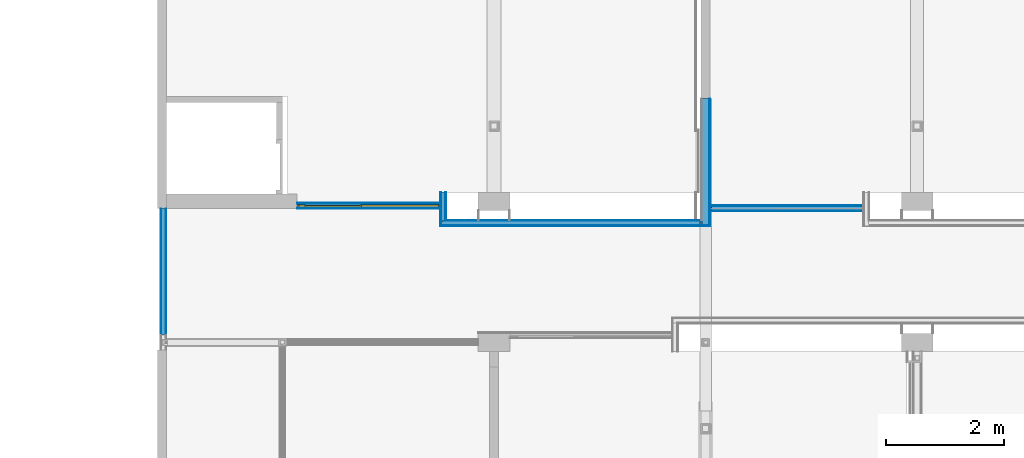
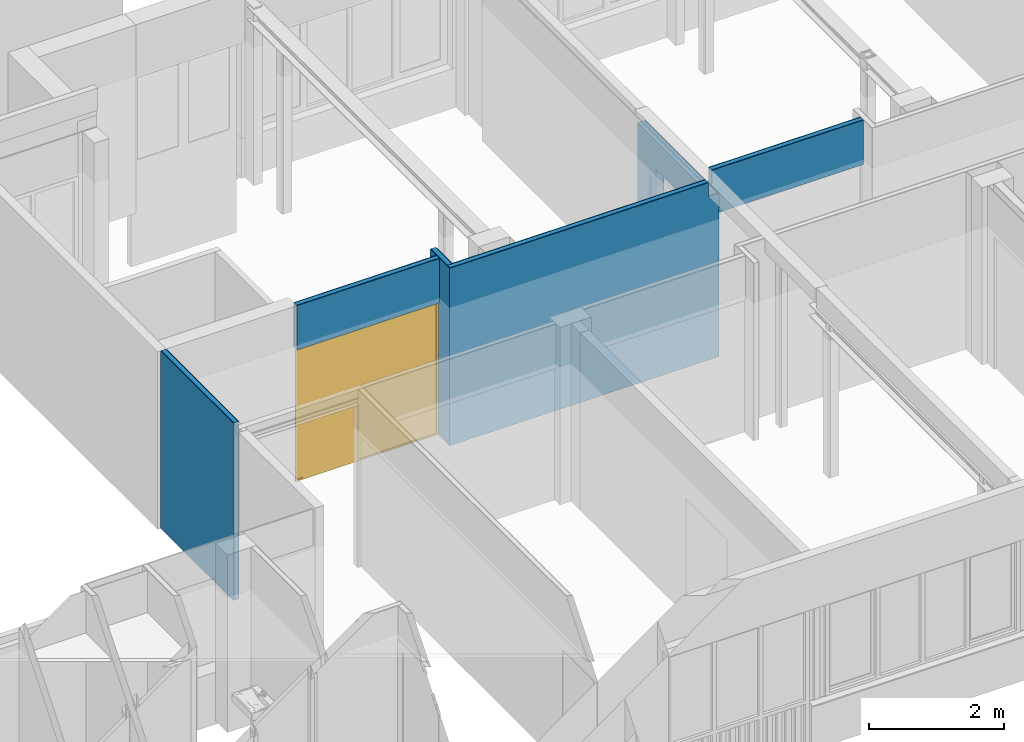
# One storey, part 66 of 99: 17 building element parts, 1 door, 3 openings, 6 elements without a shape of their own.
"""IFC2X3 building model written with IfcOpenShell, lengths in millimetres."""

from ifc_helpers import new_model, entity, si_unit, converted_unit, derived_unit, money_unit, direction, frame, origin_with_axes, place, context, subcontext, project, spatial, open_shell, faceted_brep, surface_model, material, type_object, element, fill, aggregate, save


model = new_model("IFC2X3")

# Units and contexts
model_context = context("Model", 3, precision=0.01, world=origin_with_axes(), true_north=direction((0.0, 1.0)))
body_context = subcontext(model_context, "Body", "Model", "MODEL_VIEW")
ifc_project = project(units=[si_unit("LENGTHUNIT", "METRE", prefix="MILLI"), si_unit("AREAUNIT", "SQUARE_METRE"), si_unit("VOLUMEUNIT", "CUBIC_METRE"), converted_unit("PLANEANGLEUNIT", "DEGREE", entity("IfcPlaneAngleMeasure", 0.0174532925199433), si_unit("PLANEANGLEUNIT", "RADIAN"), dimensions=[0, 0, 0, 0, 0, 0, 0]), money_unit("EUR"), converted_unit("TIMEUNIT", "Year", entity("IfcTimeMeasure", 31557600.0), si_unit("TIMEUNIT", "SECOND"), dimensions=[0, 0, 1, 0, 0, 0, 0]), si_unit("MASSUNIT", "GRAM", prefix="KILO"), si_unit("THERMODYNAMICTEMPERATUREUNIT", "DEGREE_CELSIUS"), si_unit("LUMINOUSINTENSITYUNIT", "LUMEN"), si_unit("ENERGYUNIT", "JOULE", prefix="MEGA"), derived_unit("THERMALCONDUCTANCEUNIT", [(si_unit("POWERUNIT", "WATT"), 1), (si_unit("LENGTHUNIT", "METRE"), -1), (si_unit("THERMODYNAMICTEMPERATUREUNIT", "KELVIN"), -1)]), derived_unit("SPECIFICHEATCAPACITYUNIT", [(si_unit("ENERGYUNIT", "JOULE"), 1), (si_unit("MASSUNIT", "GRAM", prefix="KILO"), -1), (si_unit("THERMODYNAMICTEMPERATUREUNIT", "KELVIN"), -1)]), derived_unit("MASSDENSITYUNIT", [(si_unit("MASSUNIT", "GRAM", prefix="KILO"), 1), (si_unit("VOLUMEUNIT", "CUBIC_METRE"), -1)])], contexts=[model_context])

# Site, building, storey
site_placement = place(None, origin_with_axes())
site = spatial("IfcSite", under=ifc_project, at=site_placement, Name="Site", CompositionType="ELEMENT")
building_placement = place(site_placement, origin_with_axes())
building = spatial("IfcBuilding", under=site, at=building_placement, Name="Naam gebouw", CompositionType="ELEMENT")
storey_placement = place(building_placement, frame((0.0, 0.0, 7650.0), z_axis=(0.0, 0.0, 1.0), x_axis=(1.0, 0.0, 0.0)))
storey = spatial("IfcBuildingStorey", under=building, at=storey_placement, Name="2e verdieping N", CompositionType="ELEMENT", Elevation=7650.0)

# Door
door_style = type_object("IfcDoorStyle", Name="D1 zl2 27", ConstructionType="NOTDEFINED", OperationType="USERDEFINED", ParameterTakesPrecedence=False, Sizeable=False)
wall_3_placement = place(storey_placement, frame((32649.99995389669, 20350.91242510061, 0.0), z_axis=(0.0, 0.0, 1.0), x_axis=(1.0, 0.0, 0.0)))
opening_2_placement = place(wall_3_placement, frame((1217.500023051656, 0.0, 0.0), z_axis=(0.0, 0.0, 1.0), x_axis=(1.0, 0.0, 0.0)))
door_placement = place(opening_2_placement, frame((-1217.500023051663, 0.0, 0.0), z_axis=(0.0, 0.0, 1.0), x_axis=(1.0, 0.0, 0.0)))
door = element("IfcDoor", 1, at=door_placement, inside=storey, type_object=door_style, Name="_Merk-x", ObjectType="DOOR", OverallHeight=2400.0, OverallWidth=2435.0, context=body_context, shape_type="SurfaceModel", body=[
    faceted_brep([(2435.000046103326, 9.99999999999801, 0.0), (2435.000046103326, -10.00000000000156, 0.0), (2405.000046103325, -10.00000000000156, 0.0), (2405.000046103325, 9.99999999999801, 0.0), (2435.000046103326, 9.99999999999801, 2369.999999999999), (2435.000046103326, -10.00000000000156, 2369.999999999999), (2405.000046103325, -10.00000000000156, 2369.999999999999), (2405.000046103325, -10.00000000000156, 30.00000000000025), (2405.000046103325, 9.99999999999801, 30.00000000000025), (2405.000046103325, 9.99999999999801, 2369.999999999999)], [[[0, 1, 2, 3]], [[4, 5, 1, 0]], [[1, 5, 6, 7, 2]], [[3, 2, 7, 8]], [[0, 3, 8, 9, 4]], [[9, 6, 5, 4]], [[8, 7, 6, 9]]]),
    faceted_brep([(1060.000000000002, -9.000000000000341, 0.0), (1060.000000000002, -10.00000000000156, 0.0), (1060.000000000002, -10.00000000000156, 2369.999999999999), (1060.000000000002, -9.000000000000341, 2369.999999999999), (1077.000000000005, -9.000000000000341, 0.0), (1077.000000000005, 9.99999999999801, 0.0), (1090.000000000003, 9.99999999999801, 0.0), (1090.000000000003, -10.00000000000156, 0.0), (1090.000000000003, -10.00000000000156, 30.00000000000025), (1090.000000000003, -10.00000000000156, 2369.999999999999), (1077.000000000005, -9.000000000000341, 2369.999999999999), (1090.000000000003, 9.99999999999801, 2369.999999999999), (1077.000000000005, 9.99999999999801, 2369.999999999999), (1090.000000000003, 9.99999999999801, 30.00000000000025)], [[[0, 1, 2, 3]], [[4, 5, 6, 7, 1, 0]], [[7, 8, 9, 2, 1]], [[10, 3, 2, 9, 11, 12]], [[10, 4, 0, 3]], [[12, 5, 4, 10]], [[12, 11, 13, 6, 5]], [[6, 13, 8, 7]], [[13, 11, 9, 8]]]),
    faceted_brep([(2405.000046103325, 9.99999999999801, 30.00000000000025), (2405.000046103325, -10.00000000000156, 30.00000000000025), (2405.000046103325, -10.00000000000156, 0.0), (2405.000046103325, 9.99999999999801, 0.0), (1090.000000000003, 9.99999999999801, 30.00000000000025), (1090.000000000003, -10.00000000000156, 30.00000000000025), (1090.000000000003, -10.00000000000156, 0.0), (1090.000000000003, 9.99999999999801, 0.0)], [[[0, 1, 2, 3]], [[4, 5, 1, 0]], [[1, 5, 6, 2]], [[3, 2, 6, 7]], [[0, 3, 7, 4]], [[7, 6, 5, 4]]]),
    faceted_brep([(0.0, 9.99999999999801, 0.0), (0.0, -10.00000000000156, 0.0), (0.0, -10.00000000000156, 2369.999999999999), (0.0, 9.99999999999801, 2369.999999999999), (30.00000000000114, 9.99999999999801, 0.0), (30.00000000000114, -10.00000000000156, 0.0), (30.00000000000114, -10.00000000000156, 30.00000000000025), (30.00000000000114, -10.00000000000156, 2369.999999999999), (30.00000000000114, 9.99999999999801, 2369.999999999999), (30.00000000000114, 9.99999999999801, 30.00000000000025)], [[[0, 1, 2, 3]], [[4, 5, 1, 0]], [[1, 5, 6, 7, 2]], [[3, 2, 7, 8]], [[0, 3, 8, 9, 4]], [[9, 6, 5, 4]], [[8, 7, 6, 9]]]),
    faceted_brep([(143.0000000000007, -9.000000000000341, 2369.999999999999), (143.0000000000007, 9.99999999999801, 2369.999999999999), (130.0000000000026, 9.99999999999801, 2369.999999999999), (130.0000000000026, -10.00000000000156, 2369.999999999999), (160.0000000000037, -10.00000000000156, 2369.999999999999), (160.0000000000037, -9.000000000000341, 2369.999999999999), (143.0000000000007, -9.000000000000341, 0.0), (143.0000000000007, 9.99999999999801, 0.0), (130.0000000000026, 9.99999999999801, 0.0), (130.0000000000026, 9.99999999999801, 30.00000000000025), (130.0000000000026, -10.00000000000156, 30.00000000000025), (160.0000000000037, -10.00000000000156, 0.0), (130.0000000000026, -10.00000000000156, 0.0), (160.0000000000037, -9.000000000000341, 0.0)], [[[0, 1, 2, 3, 4, 5]], [[0, 6, 7, 1]], [[7, 8, 9, 2, 1]], [[2, 9, 10, 3]], [[11, 4, 3, 10, 12]], [[5, 4, 11, 13]], [[5, 13, 6, 0]], [[6, 13, 11, 12, 8, 7]], [[9, 8, 12, 10]]]),
    faceted_brep([(130.0000000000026, 9.99999999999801, 30.00000000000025), (130.0000000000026, -10.00000000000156, 30.00000000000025), (130.0000000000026, -10.00000000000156, 0.0), (130.0000000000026, 9.99999999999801, 0.0), (30.00000000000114, 9.99999999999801, 30.00000000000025), (30.00000000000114, -10.00000000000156, 30.00000000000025), (30.00000000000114, -10.00000000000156, 0.0), (30.00000000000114, 9.99999999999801, 0.0)], [[[0, 1, 2, 3]], [[4, 5, 1, 0]], [[1, 5, 6, 2]], [[3, 2, 6, 7]], [[0, 3, 7, 4]], [[7, 6, 5, 4]]]),
    faceted_brep([(1077.000000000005, 9.99999999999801, 2387.0), (143.0000000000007, 9.99999999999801, 2387.0), (143.0000000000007, 9.99999999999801, 2369.999999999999), (130.0000000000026, 9.99999999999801, 2369.999999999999), (30.00000000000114, 9.99999999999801, 2369.999999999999), (0.0, 9.99999999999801, 2369.999999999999), (0.0, 9.99999999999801, 2400.0), (2435.000046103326, 9.99999999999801, 2400.0), (2435.000046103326, 9.99999999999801, 2369.999999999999), (2405.000046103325, 9.99999999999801, 2369.999999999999), (1090.000000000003, 9.99999999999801, 2369.999999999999), (1077.000000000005, 9.99999999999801, 2369.999999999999), (1077.000000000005, -9.000000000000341, 2387.0), (143.0000000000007, -9.000000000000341, 2387.0), (143.0000000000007, -9.000000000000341, 2369.999999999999), (160.0000000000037, -9.000000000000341, 2369.999999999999), (160.0000000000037, -10.00000000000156, 2369.999999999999), (130.0000000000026, -10.00000000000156, 2369.999999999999), (30.00000000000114, -10.00000000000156, 2369.999999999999), (0.0, -10.00000000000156, 2369.999999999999), (0.0, -10.00000000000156, 2400.0), (2435.000046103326, -10.00000000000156, 2400.0), (2435.000046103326, -10.00000000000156, 2369.999999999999), (2405.000046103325, -10.00000000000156, 2369.999999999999), (1090.000000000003, -10.00000000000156, 2369.999999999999), (1077.000000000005, -9.000000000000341, 2369.999999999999), (1060.000000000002, -10.00000000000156, 2369.999999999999)], [[[0, 1, 2, 3, 4, 5, 6, 7, 8, 9, 10, 11]], [[0, 12, 13, 1]], [[1, 13, 14, 2]], [[14, 15, 16, 17, 18, 4, 3, 2]], [[5, 4, 18, 19]], [[6, 5, 19, 20]], [[7, 6, 20, 21]], [[8, 7, 21, 22]], [[9, 8, 22, 23]], [[10, 9, 23, 24]], [[25, 11, 10, 24, 26, 16, 15]], [[11, 25, 12, 0]], [[14, 13, 12, 25, 15]], [[18, 17, 16, 26, 24, 23, 22, 21, 20, 19]]]),
    faceted_brep([(143.0000000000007, 0.9999999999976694, 0.0), (1077.000000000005, 0.9999999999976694, 0.0), (1077.000000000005, -9.000000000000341, 0.0), (143.0000000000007, -9.000000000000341, 0.0), (143.0000000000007, 0.9999999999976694, 2387.0), (1077.000000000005, 0.9999999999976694, 2387.0), (1077.000000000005, -9.000000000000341, 2387.0), (143.0000000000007, -9.000000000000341, 2387.0)], [[[0, 1, 2, 3]], [[0, 4, 5, 1]], [[1, 5, 6, 2]], [[3, 2, 6, 7]], [[4, 0, 3, 7]], [[5, 4, 7, 6]]]),
    surface_model("IfcShellBasedSurfaceModel", [(2405.000046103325, 8.999999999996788, 30.00000000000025), (1090.000000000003, 8.999999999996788, 30.00000000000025), (1090.000000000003, 8.999999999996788, 2369.999999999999), (2405.000046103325, 8.999999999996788, 2369.999999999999)], [open_shell([[[0, 1, 2, 3]]])]),
    surface_model("IfcShellBasedSurfaceModel", [(2405.000046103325, 0.9999999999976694, 30.00000000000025), (2405.000046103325, 0.9999999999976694, 2369.999999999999), (1090.000000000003, 0.9999999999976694, 2369.999999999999), (1090.000000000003, 0.9999999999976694, 30.00000000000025)], [open_shell([[[0, 1, 2, 3]]])]),
    surface_model("IfcShellBasedSurfaceModel", [(130.0000000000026, 8.999999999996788, 30.00000000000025), (30.00000000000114, 8.999999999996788, 30.00000000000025), (30.00000000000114, 8.999999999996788, 2369.999999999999), (130.0000000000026, 8.999999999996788, 2369.999999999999)], [open_shell([[[0, 1, 2, 3]]])]),
    surface_model("IfcShellBasedSurfaceModel", [(130.0000000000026, 0.9999999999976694, 30.00000000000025), (130.0000000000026, 0.9999999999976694, 2369.999999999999), (30.00000000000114, 0.9999999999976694, 2369.999999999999), (30.00000000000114, 0.9999999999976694, 30.00000000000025)], [open_shell([[[0, 1, 2, 3]]])]),
])

# Wall, opening, building element parts
wall_type_1 = type_object("IfcWallType", Name="Metalstud iso 150 150", PredefinedType="NOTDEFINED")
wall_1_placement = place(storey_placement, frame((39600.00000000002, 22175.91242510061, -99.99999999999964), z_axis=(0.0, 0.0, 1.0), x_axis=(0.0, -1.0, 0.0)))
wall_1 = element("IfcWall", 2, at=wall_1_placement, inside=storey, type_object=wall_type_1, Name="_Wand-x")
opening_1_placement = place(wall_1_placement, frame((1075.000026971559, 0.0, 99.99999999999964), z_axis=(0.0, 0.0, 1.0), x_axis=(1.0, 0.0, 0.0)))
element("IfcOpeningElement", 3, at=opening_1_placement, cuts=wall_1, Name="_Merk-x", context=body_context, shape_type="Brep", body=[
    faceted_brep([(-519.999973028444, -76.00000000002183, 2440.0), (-519.999973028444, -76.00000000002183, 0.0), (519.999973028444, -76.00000000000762, 0.0), (519.999973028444, -76.00000000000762, 2440.0), (-519.999973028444, 76.00000000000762, 2440.0), (-519.999973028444, 76.00000000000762, 0.0), (519.999973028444, 76.00000000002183, 0.0), (519.999973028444, 76.00000000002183, 2440.0)], [[[0, 1, 2, 3]], [[4, 5, 1, 0]], [[5, 6, 2, 1]], [[6, 7, 3, 2]], [[7, 4, 0, 3]], [[6, 5, 4, 7]]]),
])
ifc_material_1 = material(Name="Gipsplaat")
building_element_part_1_placement = place(wall_1_placement, origin_with_axes())
building_element_part_1 = element("IfcBuildingElementPart", 4, at=building_element_part_1_placement, material=ifc_material_1, Name="Gipsplaat", context=body_context, shape_type="Brep", body=[
    faceted_brep([(1595.000000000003, 75.00000000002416, 99.99999999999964), (1595.000000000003, 75.00000000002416, 2539.999999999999), (555.0000539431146, 75.00000000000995, 2539.999999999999), (555.0000539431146, 75.00000000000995, 99.99999999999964), (0.0, 75.00000000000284, 99.99999999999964), (0.0, 75.00000000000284, 3049.999999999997), (2157.500000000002, 75.00000000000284, 3049.999999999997), (2157.500000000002, 75.00000000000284, 99.99999999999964), (2070.000000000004, 75.00000000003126, 99.99999999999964), (1595.000000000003, 62.50000000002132, 99.99999999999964), (1595.000000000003, 62.50000000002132, 2539.999999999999), (555.0000539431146, 62.50000000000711, 2539.999999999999), (555.0000539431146, 62.50000000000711, 99.99999999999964), (0.0, 62.5, 99.99999999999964), (0.0, 62.5, 3049.999999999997), (2157.500000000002, 62.50000000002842, 3049.999999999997), (2157.500000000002, 62.50000000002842, 99.99999999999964), (2070.000000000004, 62.50000000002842, 99.99999999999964)], [[[0, 1, 2, 3, 4, 5, 6, 7, 8]], [[1, 0, 9, 10]], [[2, 1, 10, 11]], [[3, 2, 11, 12]], [[3, 12, 13, 4]], [[5, 4, 13, 14]], [[5, 14, 15, 6]], [[15, 16, 7, 6]], [[9, 0, 8, 7, 16, 17]], [[10, 9, 17, 16, 15, 14, 13, 12, 11]]]),
])
ifc_material_2 = material(Name="Isolatie - Steenwol LSW")
building_element_part_2_placement = place(wall_1_placement, origin_with_axes())
building_element_part_2 = element("IfcBuildingElementPart", 5, at=building_element_part_2_placement, material=ifc_material_2, Name="Isolatie - Steenwol LSW", context=body_context, shape_type="Brep", body=[
    faceted_brep([(1595.000000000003, 62.50000000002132, 99.99999999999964), (1595.000000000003, 62.50000000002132, 2539.999999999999), (555.0000539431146, 62.50000000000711, 2539.999999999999), (555.0000539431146, 62.50000000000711, 99.99999999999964), (0.0, 62.5, 99.99999999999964), (0.0, 62.5, 3049.999999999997), (2157.500000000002, 62.50000000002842, 3049.999999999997), (2157.500000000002, 62.50000000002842, 99.99999999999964), (2070.000000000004, 62.50000000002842, 99.99999999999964), (1595.000000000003, -62.49999999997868, 99.99999999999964), (1595.000000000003, -62.49999999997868, 2539.999999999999), (555.0000539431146, -62.49999999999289, 2539.999999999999), (555.0000539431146, -62.49999999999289, 99.99999999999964), (0.0, -62.5, 99.99999999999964), (0.0, -62.5, 3049.999999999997), (2157.500000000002, -62.49999999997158, 3049.999999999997), (2157.500000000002, -62.49999999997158, 99.99999999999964), (2070.000000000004, -62.49999999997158, 99.99999999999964)], [[[0, 1, 2, 3, 4, 5, 6, 7, 8]], [[1, 0, 9, 10]], [[2, 1, 10, 11]], [[3, 2, 11, 12]], [[3, 12, 13, 4]], [[5, 4, 13, 14]], [[5, 14, 15, 6]], [[15, 16, 7, 6]], [[9, 0, 8, 7, 16, 17]], [[10, 9, 17, 16, 15, 14, 13, 12, 11]]]),
])
aggregate(wall_1, [building_element_part_1, building_element_part_2])

# Wall, building element parts
wall_type_2 = type_object("IfcWallType", Name="Metalstud iso 100 100", PredefinedType="NOTDEFINED")
wall_2_placement = place(storey_placement, frame((39599.99999999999, 20105.91242510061, 0.0), z_axis=(0.0, 0.0, 1.0), x_axis=(-1.0, 0.0, 0.0)))
wall_2 = element("IfcWall", 6, at=wall_2_placement, inside=storey, type_object=wall_type_2, Name="_Wand-x")
building_element_part_3_placement = place(wall_2_placement, origin_with_axes())
building_element_part_3 = element("IfcBuildingElementPart", 7, at=building_element_part_3_placement, material=ifc_material_2, Name="Isolatie - Steenwol LSW", context=body_context, shape_type="Brep", body=[
    faceted_brep([(100.0000000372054, 12.49999999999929, 3199.999999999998), (100.0000000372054, 12.49999999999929, 2949.999999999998), (62.5, 12.49999999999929, 2949.999999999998), (62.5, 12.49999999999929, 0.0), (4502.499999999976, 12.49999999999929, 0.0), (4502.499999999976, 12.49999999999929, 3199.999999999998), (100.0000000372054, 87.49999999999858, 3199.999999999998), (100.0000000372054, 87.49999999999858, 2949.999999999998), (62.5, 87.49999999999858, 2949.999999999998), (62.5, 87.49999999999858, 0.0), (4502.499999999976, 87.49999999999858, 0.0), (4502.499999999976, 87.49999999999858, 3199.999999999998)], [[[0, 1, 2, 3, 4, 5]], [[1, 0, 6, 7]], [[8, 2, 1, 7]], [[2, 8, 9, 3]], [[10, 4, 3, 9]], [[11, 5, 4, 10]], [[6, 0, 5, 11]], [[7, 6, 11, 10, 9, 8]]]),
])
building_element_part_4_placement = place(wall_2_placement, origin_with_axes())
building_element_part_4 = element("IfcBuildingElementPart", 8, at=building_element_part_4_placement, material=ifc_material_1, Name="Gipsplaat", context=body_context, shape_type="Brep", body=[
    faceted_brep([(100.0000000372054, 87.49999999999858, 3199.999999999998), (100.0000000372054, 87.49999999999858, 2949.999999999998), (-75.00000000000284, 87.49999999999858, 2949.999999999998), (-75.00000000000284, 87.49999999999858, 0.0), (4514.999999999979, 87.49999999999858, 0.0), (4514.999999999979, 87.49999999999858, 3199.999999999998), (100.0000000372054, 100.0000000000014, 3199.999999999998), (100.0000000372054, 100.0000000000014, 2949.999999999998), (-75.00000000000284, 100.0000000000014, 2949.999999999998), (-75.00000000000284, 100.0000000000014, 0.0), (4514.999999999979, 100.0000000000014, 0.0), (4514.999999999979, 100.0000000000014, 3199.999999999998)], [[[0, 1, 2, 3, 4, 5]], [[1, 0, 6, 7]], [[8, 2, 1, 7]], [[2, 8, 9, 3]], [[10, 4, 3, 9]], [[11, 5, 4, 10]], [[6, 0, 5, 11]], [[7, 6, 11, 10, 9, 8]]]),
])
building_element_part_5_placement = place(wall_2_placement, origin_with_axes())
building_element_part_5 = element("IfcBuildingElementPart", 9, at=building_element_part_5_placement, material=ifc_material_1, Name="Gipsplaat", context=body_context, shape_type="Brep", body=[
    faceted_brep([(100.0000000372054, 0.0, 3199.999999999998), (100.0000000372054, 0.0, 2949.999999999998), (62.5, 0.0, 2949.999999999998), (62.5, 0.0, 0.0), (4427.499999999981, 0.0, 0.0), (4427.499999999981, 0.0, 3199.999999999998), (100.0000000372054, 12.49999999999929, 3199.999999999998), (100.0000000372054, 12.49999999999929, 2949.999999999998), (62.5, 12.49999999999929, 2949.999999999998), (62.5, 12.49999999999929, 0.0), (4427.499999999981, 12.49999999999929, 0.0), (4427.499999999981, 12.49999999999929, 3199.999999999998)], [[[0, 1, 2, 3, 4, 5]], [[1, 0, 6, 7]], [[8, 2, 1, 7]], [[2, 8, 9, 3]], [[10, 4, 3, 9]], [[11, 5, 4, 10]], [[6, 0, 5, 11]], [[7, 6, 11, 10, 9, 8]]]),
])
aggregate(wall_2, [building_element_part_3, building_element_part_4, building_element_part_5])

# Wall, opening
wall_3 = element("IfcWall", 10, at=wall_3_placement, inside=storey, type_object=wall_type_2, Name="_Wand-x")
opening_2 = element("IfcOpeningElement", 11, at=opening_2_placement, cuts=wall_3, Name="_Merk-x", context=body_context, shape_type="Brep", body=[
    faceted_brep([(1217.500023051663, -10.00000000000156, 0.0), (1217.500023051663, -10.00000000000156, 2400.0), (1217.500023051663, -51.00000000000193, 2400.0), (1217.500023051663, -51.00000000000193, 0.0), (1217.500023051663, 51.00000000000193, 0.0), (1217.500023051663, 51.00000000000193, 2400.0), (-1217.500023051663, -10.00000000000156, 2400.0), (-1217.500023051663, -51.00000000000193, 2400.0), (-1217.500023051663, 51.00000000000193, 2400.0), (-1217.500023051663, -51.00000000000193, 0.0), (-1217.500023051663, -10.00000000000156, 0.0), (-1217.500023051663, 51.00000000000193, 0.0)], [[[0, 1, 2, 3]], [[1, 0, 4, 5]], [[6, 7, 2, 1, 5, 8]], [[7, 9, 3, 2]], [[0, 3, 9, 10, 11, 4]], [[5, 4, 11, 8]], [[6, 10, 9, 7]], [[10, 6, 8, 11]]]),
])

fill(opening_2, door)

# Building element part
building_element_part_6_placement = place(wall_3_placement, origin_with_axes())
building_element_part_6 = element("IfcBuildingElementPart", 12, at=building_element_part_6_placement, material=ifc_material_1, Name="Gipsplaat", context=body_context, shape_type="Brep", body=[
    faceted_brep([(2435.000046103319, 37.50000000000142, 2400.0), (2435.000046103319, 50.00000000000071, 2400.0), (2435.000046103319, 50.00000000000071, 3199.999999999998), (2435.000046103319, 37.50000000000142, 3199.999999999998), (0.0, 50.00000000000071, 2400.0), (0.0, 37.50000000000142, 2400.0), (0.0, 50.00000000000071, 3199.999999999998), (0.0, 37.50000000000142, 3199.999999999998)], [[[0, 1, 2, 3]], [[4, 1, 0, 5]], [[1, 4, 6, 2]], [[2, 6, 7, 3]], [[5, 0, 3, 7]], [[4, 5, 7, 6]]]),
])

building_element_part_7_placement = place(wall_3_placement, origin_with_axes())
building_element_part_7 = element("IfcBuildingElementPart", 13, at=building_element_part_7_placement, material=ifc_material_2, Name="Isolatie - Steenwol LSW", context=body_context, shape_type="Brep", body=[
    faceted_brep([(2435.000046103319, -10.00000000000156, 2400.0), (2435.000046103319, 37.50000000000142, 2400.0), (2435.000046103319, 37.50000000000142, 3199.999999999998), (2435.000046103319, -37.50000000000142, 3199.999999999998), (2435.000046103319, -37.50000000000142, 2400.0), (0.0, -10.00000000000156, 2400.0), (0.0, 37.50000000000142, 2400.0), (0.0, -37.50000000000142, 2400.0), (0.0, 37.50000000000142, 3199.999999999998), (0.0, -37.50000000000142, 3199.999999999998)], [[[0, 1, 2, 3, 4]], [[5, 6, 1, 0, 4, 7]], [[1, 6, 8, 2]], [[8, 9, 3, 2]], [[4, 3, 9, 7]], [[6, 5, 7, 9, 8]]]),
])

building_element_part_8_placement = place(wall_3_placement, origin_with_axes())
building_element_part_8 = element("IfcBuildingElementPart", 14, at=building_element_part_8_placement, material=ifc_material_1, Name="Gipsplaat", context=body_context, shape_type="Brep", body=[
    faceted_brep([(2435.000046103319, -50.00000000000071, 2400.0), (2435.000046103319, -37.50000000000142, 2400.0), (2435.000046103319, -37.50000000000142, 3199.999999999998), (2435.000046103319, -50.00000000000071, 3199.999999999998), (0.0, -37.50000000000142, 2400.0), (0.0, -50.00000000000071, 2400.0), (0.0, -37.50000000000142, 3199.999999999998), (0.0, -50.00000000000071, 3199.999999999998)], [[[0, 1, 2, 3]], [[4, 1, 0, 5]], [[1, 4, 6, 2]], [[2, 6, 7, 3]], [[5, 0, 3, 7]], [[4, 5, 7, 6]]]),
])

aggregate(wall_3, [building_element_part_6, building_element_part_7, building_element_part_8])

# Wall, opening, building element parts
wall_4_placement = place(storey_placement, frame((39674.99999999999, 20305.91242510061, 0.0), z_axis=(0.0, 0.0, 1.0), x_axis=(1.0, 0.0, 0.0)))
wall_4 = element("IfcWall", 15, at=wall_4_placement, inside=storey, type_object=wall_type_2, Name="_Wand-x")
opening_3_placement = place(wall_4_placement, frame((1305.000000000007, 0.0, 0.0), z_axis=(0.0, 0.0, 1.0), x_axis=(1.0, 0.0, 0.0)))
element("IfcOpeningElement", 16, at=opening_3_placement, cuts=wall_4, Name="_Merk-x", context=body_context, shape_type="Brep", body=[
    faceted_brep([(1305.000000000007, -10.00000000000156, 0.0), (1305.000000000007, -10.00000000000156, 2400.0), (1305.000000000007, -51.00000000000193, 2400.0), (1305.000000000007, -51.00000000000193, 0.0), (1305.000000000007, 51.00000000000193, 0.0), (1305.000000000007, 51.00000000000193, 2400.0), (-1305.000000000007, -10.00000000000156, 2400.0), (-1305.000000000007, -51.00000000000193, 2400.0), (-1305.000000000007, 51.00000000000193, 2400.0), (-1305.000000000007, -51.00000000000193, 0.0), (-1305.000000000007, -10.00000000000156, 0.0), (-1305.000000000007, 51.00000000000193, 0.0)], [[[0, 1, 2, 3]], [[1, 0, 4, 5]], [[6, 7, 2, 1, 5, 8]], [[7, 9, 3, 2]], [[0, 3, 9, 10, 11, 4]], [[5, 4, 11, 8]], [[6, 10, 9, 7]], [[10, 6, 8, 11]]]),
])
building_element_part_9_placement = place(wall_4_placement, origin_with_axes())
building_element_part_9 = element("IfcBuildingElementPart", 17, at=building_element_part_9_placement, material=ifc_material_1, Name="Gipsplaat", context=body_context, shape_type="Brep", body=[
    faceted_brep([(2610.000000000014, 37.50000000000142, 2400.0), (2610.000000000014, 50.00000000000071, 2400.0), (2610.000000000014, 50.00000000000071, 3199.999999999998), (2610.000000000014, 37.50000000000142, 3199.999999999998), (0.0, 50.00000000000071, 2400.0), (0.0, 37.50000000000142, 2400.0), (0.0, 50.00000000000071, 2949.999999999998), (25.00000003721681, 50.00000000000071, 2949.999999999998), (25.00000003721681, 50.00000000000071, 3199.999999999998), (25.00000003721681, 37.50000000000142, 3199.999999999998), (25.00000003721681, 37.50000000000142, 2949.999999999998), (0.0, 37.50000000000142, 2949.999999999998)], [[[0, 1, 2, 3]], [[4, 1, 0, 5]], [[1, 4, 6, 7, 8, 2]], [[9, 3, 2, 8]], [[5, 0, 3, 9, 10, 11]], [[4, 5, 11, 6]], [[6, 11, 10, 7]], [[8, 7, 10, 9]]]),
])
building_element_part_10_placement = place(wall_4_placement, origin_with_axes())
building_element_part_10 = element("IfcBuildingElementPart", 18, at=building_element_part_10_placement, material=ifc_material_1, Name="Gipsplaat", context=body_context, shape_type="Brep", body=[
    faceted_brep([(2610.000000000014, -50.00000000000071, 2400.0), (2610.000000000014, -37.50000000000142, 2400.0), (2610.000000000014, -37.50000000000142, 3199.999999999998), (2610.000000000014, -50.00000000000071, 3199.999999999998), (0.0, -37.50000000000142, 2400.0), (0.0, -50.00000000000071, 2400.0), (0.0, -37.50000000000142, 2949.999999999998), (25.00000003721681, -37.50000000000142, 2949.999999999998), (25.00000003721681, -37.50000000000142, 3199.999999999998), (25.00000003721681, -50.00000000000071, 3199.999999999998), (25.00000003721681, -50.00000000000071, 2949.999999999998), (0.0, -50.00000000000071, 2949.999999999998)], [[[0, 1, 2, 3]], [[4, 1, 0, 5]], [[1, 4, 6, 7, 8, 2]], [[9, 3, 2, 8]], [[5, 0, 3, 9, 10, 11]], [[4, 5, 11, 6]], [[6, 11, 10, 7]], [[8, 7, 10, 9]]]),
])
building_element_part_11_placement = place(wall_4_placement, origin_with_axes())
building_element_part_11 = element("IfcBuildingElementPart", 19, at=building_element_part_11_placement, material=ifc_material_2, Name="Isolatie - Steenwol LSW", context=body_context, shape_type="Brep", body=[
    faceted_brep([(2610.000000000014, -10.00000000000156, 2400.0), (2610.000000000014, 37.50000000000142, 2400.0), (2610.000000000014, 37.50000000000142, 3199.999999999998), (2610.000000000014, -37.50000000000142, 3199.999999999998), (2610.000000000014, -37.50000000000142, 2400.0), (0.0, -10.00000000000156, 2400.0), (0.0, 37.50000000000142, 2400.0), (0.0, -37.50000000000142, 2400.0), (0.0, 37.50000000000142, 2949.999999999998), (25.00000003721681, 37.50000000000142, 2949.999999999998), (25.00000003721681, 37.50000000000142, 3199.999999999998), (25.00000003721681, -37.50000000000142, 3199.999999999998), (25.00000003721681, -37.50000000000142, 2949.999999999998), (0.0, -37.50000000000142, 2949.999999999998)], [[[0, 1, 2, 3, 4]], [[5, 6, 1, 0, 4, 7]], [[1, 6, 8, 9, 10, 2]], [[3, 2, 10, 11]], [[11, 12, 13, 7, 4, 3]], [[6, 5, 7, 13, 8]], [[13, 12, 9, 8]], [[9, 12, 11, 10]]]),
])
aggregate(wall_4, [building_element_part_9, building_element_part_10, building_element_part_11])

# Wall, building element parts
wall_5_placement = place(storey_placement, frame((35185.00000000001, 20580.9124251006, 0.0), z_axis=(0.0, 0.0, 1.0), x_axis=(0.0, -1.0, 0.0)))
wall_5 = element("IfcWall", 20, at=wall_5_placement, inside=storey, type_object=wall_type_2, Name="_Wand-x")
building_element_part_12_placement = place(wall_5_placement, origin_with_axes())
building_element_part_12 = element("IfcBuildingElementPart", 21, at=building_element_part_12_placement, material=ifc_material_2, Name="Isolatie - Steenwol LSW", context=body_context, shape_type="Brep", body=[
    faceted_brep([(487.4999999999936, -87.49999999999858, 0.0), (0.0, -87.49999999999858, 0.0), (0.0, -12.50000000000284, 0.0), (487.4999999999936, -12.50000000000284, 0.0), (487.4999999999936, -87.49999999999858, 3199.999999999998), (0.0, -87.49999999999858, 3199.999999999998), (0.0, -12.50000000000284, 3199.999999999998), (487.4999999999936, -12.50000000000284, 3199.999999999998)], [[[0, 1, 2, 3]], [[4, 5, 1, 0]], [[2, 1, 5, 6]], [[3, 2, 6, 7]], [[3, 7, 4, 0]], [[7, 6, 5, 4]]]),
])
building_element_part_13_placement = place(wall_5_placement, origin_with_axes())
building_element_part_13 = element("IfcBuildingElementPart", 22, at=building_element_part_13_placement, material=ifc_material_1, Name="Gipsplaat", context=body_context, shape_type="Brep", body=[
    faceted_brep([(474.9999999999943, -12.50000000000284, 0.0), (0.0, -12.50000000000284, 0.0), (0.0, 0.0, 0.0), (474.9999999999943, 0.0, 0.0), (474.9999999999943, -12.50000000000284, 3199.999999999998), (0.0, -12.50000000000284, 3199.999999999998), (0.0, 0.0, 3199.999999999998), (474.9999999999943, 0.0, 3199.999999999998)], [[[0, 1, 2, 3]], [[4, 5, 1, 0]], [[2, 1, 5, 6]], [[3, 2, 6, 7]], [[3, 7, 4, 0]], [[7, 6, 5, 4]]]),
])
building_element_part_14_placement = place(wall_5_placement, origin_with_axes())
building_element_part_14 = element("IfcBuildingElementPart", 23, at=building_element_part_14_placement, material=ifc_material_1, Name="Gipsplaat", context=body_context, shape_type="Brep", body=[
    faceted_brep([(562.499999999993, -100.0000000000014, 0.0), (0.0, -100.0000000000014, 0.0), (0.0, -87.49999999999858, 0.0), (562.499999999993, -87.49999999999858, 0.0), (562.499999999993, -100.0000000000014, 3199.999999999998), (0.0, -100.0000000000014, 3199.999999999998), (0.0, -87.49999999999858, 3199.999999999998), (562.499999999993, -87.49999999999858, 3199.999999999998)], [[[0, 1, 2, 3]], [[4, 5, 1, 0]], [[2, 1, 5, 6]], [[3, 2, 6, 7]], [[3, 7, 4, 0]], [[7, 6, 5, 4]]]),
])
aggregate(wall_5, [building_element_part_12, building_element_part_13, building_element_part_14])

wall_6_placement = place(storey_placement, frame((30325.0, 20300.91242510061, 0.0), z_axis=(0.0, 0.0, 1.0), x_axis=(0.0, -1.0, 0.0)))
wall_6 = element("IfcWall", 24, at=wall_6_placement, inside=storey, type_object=wall_type_2, Name="_Wand-x")
building_element_part_15_placement = place(wall_6_placement, origin_with_axes())
building_element_part_15 = element("IfcBuildingElementPart", 25, at=building_element_part_15_placement, material=ifc_material_1, Name="Gipsplaat", context=body_context, shape_type="Brep", body=[
    faceted_brep([(2149.999999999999, 87.49999999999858, 3199.999999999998), (2149.999999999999, 100.0000000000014, 3199.999999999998), (0.0, 100.0000000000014, 3199.999999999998), (0.0, 87.49999999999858, 3199.999999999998), (2149.999999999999, 87.49999999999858, 0.0), (2149.999999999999, 100.0000000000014, 0.0), (0.0, 100.0000000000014, 0.0), (0.0, 87.49999999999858, 0.0)], [[[0, 1, 2, 3]], [[0, 4, 5, 1]], [[1, 5, 6, 2]], [[3, 2, 6, 7]], [[4, 0, 3, 7]], [[5, 4, 7, 6]]]),
])
building_element_part_16_placement = place(wall_6_placement, origin_with_axes())
building_element_part_16 = element("IfcBuildingElementPart", 26, at=building_element_part_16_placement, material=ifc_material_2, Name="Isolatie - Steenwol LSW", context=body_context, shape_type="Brep", body=[
    faceted_brep([(2149.999999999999, 12.49999999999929, 3199.999999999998), (2149.999999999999, 87.49999999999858, 3199.999999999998), (0.0, 87.49999999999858, 3199.999999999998), (0.0, 12.49999999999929, 3199.999999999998), (2149.999999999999, 12.49999999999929, 0.0), (2149.999999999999, 87.49999999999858, 0.0), (0.0, 87.49999999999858, 0.0), (0.0, 12.49999999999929, 0.0)], [[[0, 1, 2, 3]], [[0, 4, 5, 1]], [[1, 5, 6, 2]], [[3, 2, 6, 7]], [[4, 0, 3, 7]], [[5, 4, 7, 6]]]),
])
building_element_part_17_placement = place(wall_6_placement, origin_with_axes())
building_element_part_17 = element("IfcBuildingElementPart", 27, at=building_element_part_17_placement, material=ifc_material_1, Name="Gipsplaat", context=body_context, shape_type="Brep", body=[
    faceted_brep([(2149.999999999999, 0.0, 3199.999999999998), (2149.999999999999, 12.49999999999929, 3199.999999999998), (0.0, 12.49999999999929, 3199.999999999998), (0.0, 0.0, 3199.999999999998), (2149.999999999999, 0.0, 0.0), (2149.999999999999, 12.49999999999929, 0.0), (0.0, 12.49999999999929, 0.0), (0.0, 0.0, 0.0)], [[[0, 1, 2, 3]], [[0, 4, 5, 1]], [[1, 5, 6, 2]], [[3, 2, 6, 7]], [[4, 0, 3, 7]], [[5, 4, 7, 6]]]),
])
aggregate(wall_6, [building_element_part_15, building_element_part_16, building_element_part_17])

save(model, "model.ifc")
